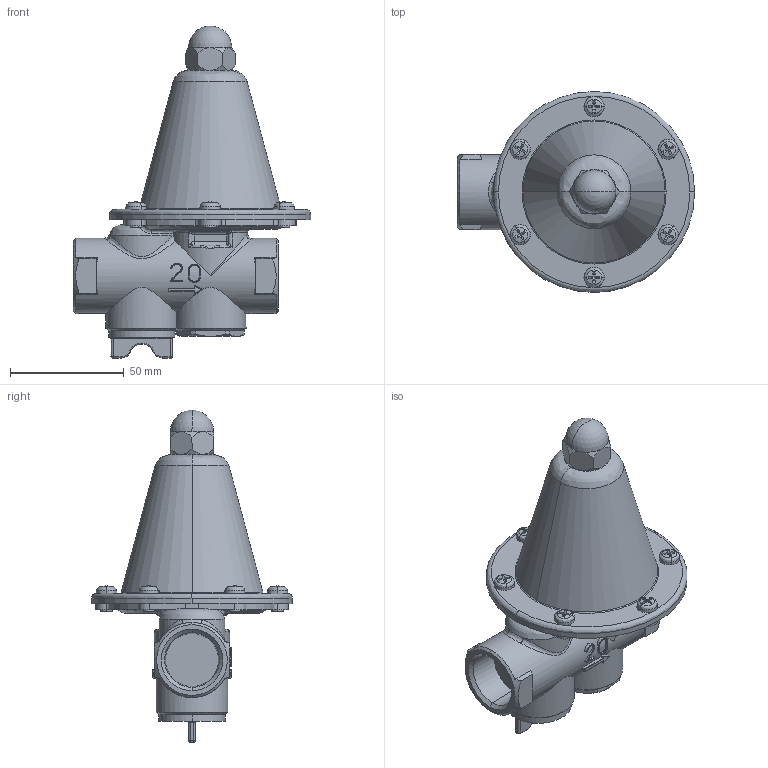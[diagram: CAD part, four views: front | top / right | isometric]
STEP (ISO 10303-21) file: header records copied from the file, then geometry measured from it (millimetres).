
FILE_DESCRIPTION( (''), '2;1');
FILE_NAME ('PC1056.968.GD-15(20A)_16967.stp','2024-08-30T16:15:16',(''),(''),'spGate 19.8.4 (****-****-****-****)','','');
FILE_SCHEMA (('AUTOMOTIVE_DESIGN'));
Length unit declared in the file: millimetre
Products named in the file (4): Assembly; CP_''_JIS B 1183 六角袋ナット 1形 M''_704; CP_ナベ''_JIS B 1111 なべ小ねじ M5x8_726; GD-15(20A)弁箱P
Assembly tree (8 placements, depth 2):
  Assembly
    CP_''_JIS B 1183 六角袋ナット 1形 M''_704
    CP_ナベ''_JIS B 1111 なべ小ねじ M5x8_726  x6
    GD-15(20A)弁箱P
Bounding box: 104.1 x 88.2 x 145.7 mm (x, y, z)
Volume: 145764.2 mm3; surface area: 55423 mm2
Topology: 8 solids, 8 shells, 643 faces, 1563 edges, 930 vertices
Faces by surface type: plane 265, bspline 210, cylinder 154, sphere 14
Entity records: 26240 total; most frequent: CARTESIAN_POINT 7902, ORIENTED_EDGE 2170, DIRECTION 1819, COLOUR_RGB 1531, PRESENTATION_STYLE_ASSIGNMENT 1531, STYLED_ITEM 1531, EDGE_CURVE 1085, DRAUGHTING_PRE_DEFINED_CURVE_FONT 1085
